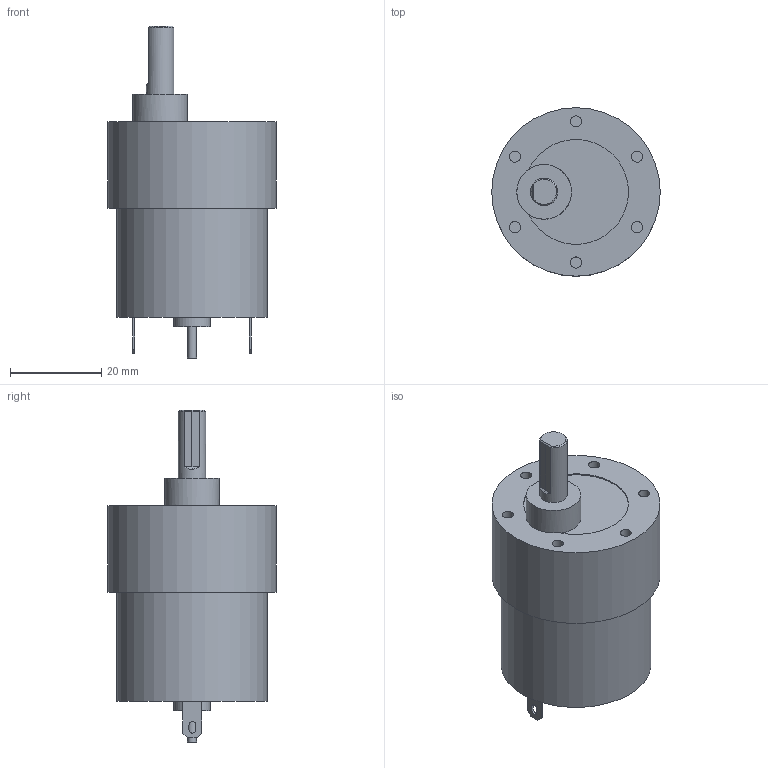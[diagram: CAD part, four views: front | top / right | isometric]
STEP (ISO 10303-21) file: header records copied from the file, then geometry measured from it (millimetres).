
FILE_DESCRIPTION(/* description */ ('Alibre Inc.'),/* implementation_level */ '2;1');
FILE_NAME(/* name */ 'export0',/* time_stamp */ '2013-08-02T11:07:58-06:00',/* author */ (''),/* organization */ (''),/* preprocessor_version */ 'ST-DEVELOPER v14',/* originating_system */ 'Alibre',/* authorisation */ '');
FILE_SCHEMA (('ALIBRE_SCHEMA','CONFIG_CONTROL_DESIGN'));
Length unit declared in the file: centimetre
Products named in the file (1): ID_1
Bounding box: 37 x 37 x 72.9 mm (x, y, z)
Volume: 42016.7 mm3; surface area: 7766.1 mm2
Topology: 1 solids, 1 shells, 57 faces, 122 edges, 80 vertices
Faces by surface type: plane 39, cylinder 17, cone 1
Full cylindrical faces by diameter (mm): 2 x1, 2.459 x6, 6 x1, 8 x1, 12 x1, 33 x1, 37 x1
Entity records: 3360 total; most frequent: CARTESIAN_POINT 464, DIRECTION 283, ORIENTED_EDGE 216, REFERENCEDEPENDENTUV 137, PERSISTANTTOPOLOGYATTRIBUTE 131, CONSTRAINTPAIRUV 122, VECTOR 119, AXIS2_PLACEMENT_3D 115
